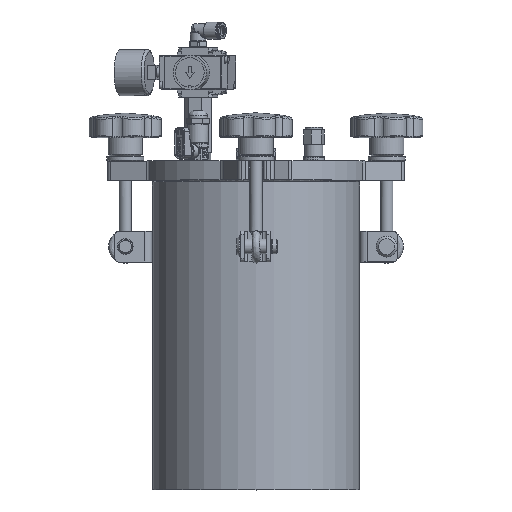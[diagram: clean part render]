
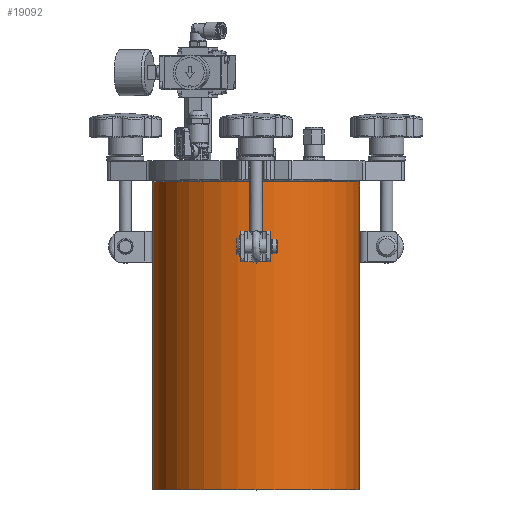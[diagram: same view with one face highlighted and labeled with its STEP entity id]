
A CAD part, top view. The second image highlights one B-rep face of the part: STEP entity #19092.
In plain terms, the highlighted cylindrical face has radius 84.15 mm (diameter 168.3 mm), a full revolution.
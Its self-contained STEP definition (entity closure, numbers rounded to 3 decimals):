
#2280 = EDGE_LOOP ( 'NONE', ( #43627 ) ) ;
#4552 = EDGE_LOOP ( 'NONE', ( #42918 ) ) ;
#5873 = VERTEX_POINT ( 'NONE', #28015 ) ;
#6632 = AXIS2_PLACEMENT_3D ( 'NONE', #17282, #33509, #67459 ) ;
#9933 = AXIS2_PLACEMENT_3D ( 'NONE', #65424, #64701, #41831 ) ;
#14857 = CARTESIAN_POINT ( 'NONE',  ( 114.65, 250., -84.15 ) ) ;
#17282 = CARTESIAN_POINT ( 'NONE',  ( 114.65, 250., 0. ) ) ;
#19092 = ADVANCED_FACE ( 'NONE', ( #71345, #42577 ), #24877, .T. ) ;
#24446 = CIRCLE ( 'NONE', #65664, 84.15 ) ;
#24877 = CYLINDRICAL_SURFACE ( 'NONE', #9933, 84.15 ) ;
#24915 = EDGE_CURVE ( 'NONE', #60571, #60571, #37279, .T. ) ;
#26913 = DIRECTION ( 'NONE',  ( 0., 0., -1. ) ) ;
#28015 = CARTESIAN_POINT ( 'NONE',  ( 114.65, 0., -84.15 ) ) ;
#33509 = DIRECTION ( 'NONE',  ( 0., -1., 0. ) ) ;
#37279 = CIRCLE ( 'NONE', #6632, 84.15 ) ;
#41831 = DIRECTION ( 'NONE',  ( 0., 0., -1. ) ) ;
#42147 = DIRECTION ( 'NONE',  ( 0., 1., 0. ) ) ;
#42577 = FACE_OUTER_BOUND ( 'NONE', #4552, .T. ) ;
#42918 = ORIENTED_EDGE ( 'NONE', *, *, #24915, .T. ) ;
#43627 = ORIENTED_EDGE ( 'NONE', *, *, #56340, .T. ) ;
#56340 = EDGE_CURVE ( 'NONE', #5873, #5873, #24446, .T. ) ;
#58382 = CARTESIAN_POINT ( 'NONE',  ( 114.65, 0., 0. ) ) ;
#60571 = VERTEX_POINT ( 'NONE', #14857 ) ;
#64701 = DIRECTION ( 'NONE',  ( 0., -1., 0. ) ) ;
#65424 = CARTESIAN_POINT ( 'NONE',  ( 114.65, 250., 0. ) ) ;
#65664 = AXIS2_PLACEMENT_3D ( 'NONE', #58382, #42147, #26913 ) ;
#67459 = DIRECTION ( 'NONE',  ( 0., 0., -1. ) ) ;
#71345 = FACE_OUTER_BOUND ( 'NONE', #2280, .T. ) ;
